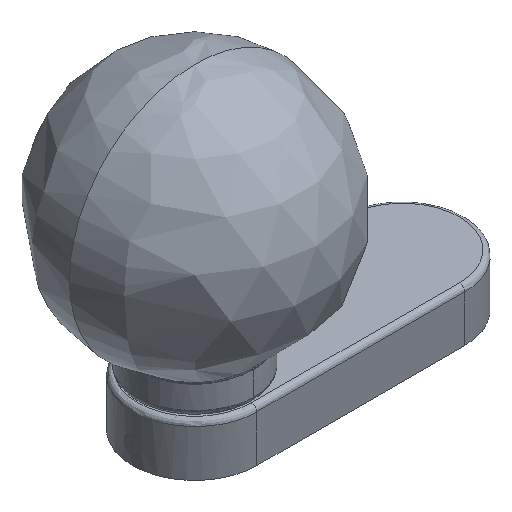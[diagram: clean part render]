
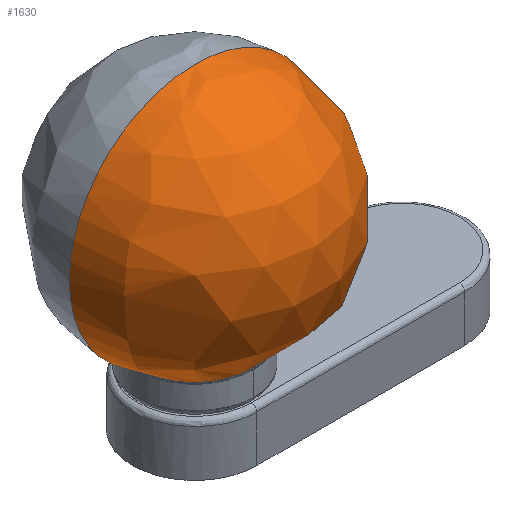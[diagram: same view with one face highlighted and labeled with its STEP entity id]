
A CAD part, isometric view. The second image highlights one B-rep face of the part: STEP entity #1630.
In plain terms, the highlighted free-form (B-spline) face has degree [2, 2] with [5, 5] control points.
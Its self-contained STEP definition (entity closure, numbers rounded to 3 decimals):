
#26=(
BOUNDED_SURFACE()
B_SPLINE_SURFACE(2,2,((#3053,#3054,#3055,#3056,#3057),(#3058,#3059,#3060,
#3061,#3062),(#3063,#3064,#3065,#3066,#3067),(#3068,#3069,#3070,#3071,#3072),
(#3073,#3074,#3075,#3076,#3077)),.UNSPECIFIED.,.F.,.F.,.F.)
B_SPLINE_SURFACE_WITH_KNOTS((3,2,3),(3,2,3),(-1.58,-0.23,
1.121),(-1.571,0.,1.571),
 .UNSPECIFIED.)
GEOMETRIC_REPRESENTATION_ITEM()
RATIONAL_B_SPLINE_SURFACE(((1.,0.707,1.,0.707,1.),
(0.781,0.552,0.781,0.552,
0.781),(1.,0.707,1.,0.707,1.),(0.781,
0.552,0.781,0.552,0.781),
(1.,0.707,1.,0.707,1.)))
REPRESENTATION_ITEM('')
SURFACE()
);
#63=B_SPLINE_CURVE_WITH_KNOTS('',3,(#3035,#3036,#3037,#3038,#3039,#3040,
#3041,#3042,#3043),.UNSPECIFIED.,.F.,.F.,(4,1,1,1,1,1,4),(0.,0.167,
0.333,0.5,0.667,0.833,1.),
 .UNSPECIFIED.);
#64=B_SPLINE_CURVE_WITH_KNOTS('',3,(#3044,#3045,#3046,#3047,#3048,#3049,
#3050,#3051,#3052),.UNSPECIFIED.,.F.,.F.,(4,1,1,1,1,1,4),(0.,0.167,
0.333,0.5,0.667,0.833,1.),
 .UNSPECIFIED.);
#243=FACE_OUTER_BOUND('',#361,.T.);
#361=EDGE_LOOP('',(#1371,#1372,#1373));
#663=CIRCLE('',#1800,26.589);
#774=VERTEX_POINT('',#2994);
#775=VERTEX_POINT('',#3000);
#776=VERTEX_POINT('',#3034);
#979=EDGE_CURVE('',#774,#775,#663,.T.);
#980=EDGE_CURVE('',#776,#774,#63,.T.);
#981=EDGE_CURVE('',#775,#776,#64,.T.);
#1371=ORIENTED_EDGE('',*,*,#979,.T.);
#1372=ORIENTED_EDGE('',*,*,#981,.T.);
#1373=ORIENTED_EDGE('',*,*,#980,.T.);
#1630=ADVANCED_FACE('',(#243),#26,.F.);
#1800=AXIS2_PLACEMENT_3D('',#3008,#2194,#2195);
#2194=DIRECTION('center_axis',(0.,0.,
1.));
#2195=DIRECTION('ref_axis',(-1.,0.,0.));
#2994=CARTESIAN_POINT('',(0.,76.589,38.571));
#3000=CARTESIAN_POINT('',(0.,23.411,38.571));
#3008=CARTESIAN_POINT('Origin',(0.,50.,38.571));
#3034=CARTESIAN_POINT('',(0.,50.,152.267));
#3035=CARTESIAN_POINT('Ctrl Pts',(0.,50.,
152.267));
#3036=CARTESIAN_POINT('Ctrl Pts',(0.,59.036,
152.484));
#3037=CARTESIAN_POINT('Ctrl Pts',(0.,76.932,
148.347));
#3038=CARTESIAN_POINT('Ctrl Pts',(0.,98.691,
131.361));
#3039=CARTESIAN_POINT('Ctrl Pts',(0.,110.809,
106.531));
#3040=CARTESIAN_POINT('Ctrl Pts',(0.,110.959,
78.902));
#3041=CARTESIAN_POINT('Ctrl Pts',(0.,98.99,
54.029));
#3042=CARTESIAN_POINT('Ctrl Pts',(0.,84.785,
42.384));
#3043=CARTESIAN_POINT('Ctrl Pts',(0.,76.589,
38.571));
#3044=CARTESIAN_POINT('Ctrl Pts',(0.,23.411,38.571));
#3045=CARTESIAN_POINT('Ctrl Pts',(0.,15.215,42.384));
#3046=CARTESIAN_POINT('Ctrl Pts',(0.,1.01,54.029));
#3047=CARTESIAN_POINT('Ctrl Pts',(0.,-10.959,78.902));
#3048=CARTESIAN_POINT('Ctrl Pts',(0.,-10.809,106.531));
#3049=CARTESIAN_POINT('Ctrl Pts',(0.,1.309,131.361));
#3050=CARTESIAN_POINT('Ctrl Pts',(0.,23.068,148.347));
#3051=CARTESIAN_POINT('Ctrl Pts',(0.,40.964,152.484));
#3052=CARTESIAN_POINT('Ctrl Pts',(0.,50.,152.267));
#3053=CARTESIAN_POINT('Ctrl Pts',(0.,50.,
152.267));
#3054=CARTESIAN_POINT('Ctrl Pts',(0.,50.,
152.267));
#3055=CARTESIAN_POINT('Ctrl Pts',(0.,50.,
152.267));
#3056=CARTESIAN_POINT('Ctrl Pts',(0.,50.,
152.267));
#3057=CARTESIAN_POINT('Ctrl Pts',(0.,50.,
152.267));
#3058=CARTESIAN_POINT('Ctrl Pts',(0.,2.095,
152.713));
#3059=CARTESIAN_POINT('Ctrl Pts',(-47.905,2.095,152.713));
#3060=CARTESIAN_POINT('Ctrl Pts',(-47.905,50.,152.713));
#3061=CARTESIAN_POINT('Ctrl Pts',(-47.905,97.905,152.713));
#3062=CARTESIAN_POINT('Ctrl Pts',(0.,97.905,152.713));
#3063=CARTESIAN_POINT('Ctrl Pts',(0.,-8.814,
106.065));
#3064=CARTESIAN_POINT('Ctrl Pts',(-58.814,-8.814,106.065));
#3065=CARTESIAN_POINT('Ctrl Pts',(-58.814,50.,106.065));
#3066=CARTESIAN_POINT('Ctrl Pts',(-58.814,108.814,106.065));
#3067=CARTESIAN_POINT('Ctrl Pts',(0.,108.814,
106.065));
#3068=CARTESIAN_POINT('Ctrl Pts',(0.,-19.724,
59.416));
#3069=CARTESIAN_POINT('Ctrl Pts',(-69.724,-19.724,59.416));
#3070=CARTESIAN_POINT('Ctrl Pts',(-69.724,50.,59.416));
#3071=CARTESIAN_POINT('Ctrl Pts',(-69.724,119.724,59.416));
#3072=CARTESIAN_POINT('Ctrl Pts',(0.,119.724,
59.416));
#3073=CARTESIAN_POINT('Ctrl Pts',(0.,23.411,
38.571));
#3074=CARTESIAN_POINT('Ctrl Pts',(-26.589,23.411,38.571));
#3075=CARTESIAN_POINT('Ctrl Pts',(-26.589,50.,38.571));
#3076=CARTESIAN_POINT('Ctrl Pts',(-26.589,76.589,38.571));
#3077=CARTESIAN_POINT('Ctrl Pts',(0.,76.589,
38.571));
